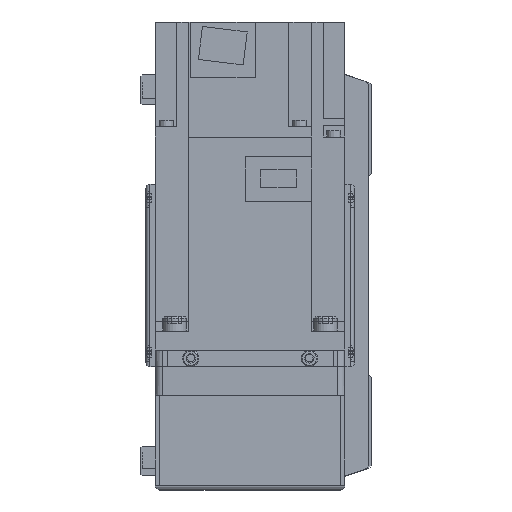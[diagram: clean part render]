
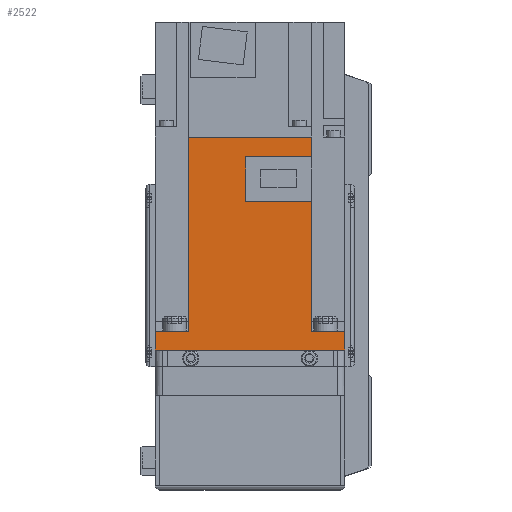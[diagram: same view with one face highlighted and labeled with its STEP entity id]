
A CAD part, left-side view. The second image highlights one B-rep face of the part: STEP entity #2522.
In plain terms, the highlighted planar face has unit normal (-1, 0, 0) as drawn and (1, 0, 0) by its records, which use the part's own axes.
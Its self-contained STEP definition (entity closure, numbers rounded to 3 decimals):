
#2522 = ADVANCED_FACE( '', ( #5636 ), #5637, .F. );
#5636 = FACE_OUTER_BOUND( '', #9440, .T. );
#5637 = PLANE( '', #9441 );
#9440 = EDGE_LOOP( '', ( #16572, #16573, #16574, #16575, #16576, #16577, #16578, #16579, #16580, #16581, #16582, #16583 ) );
#9441 = AXIS2_PLACEMENT_3D( '', #16584, #16585, #16586 );
#16572 = ORIENTED_EDGE( '', *, *, #23973, .F. );
#16573 = ORIENTED_EDGE( '', *, *, #23631, .F. );
#16574 = ORIENTED_EDGE( '', *, *, #23748, .F. );
#16575 = ORIENTED_EDGE( '', *, *, #21787, .T. );
#16576 = ORIENTED_EDGE( '', *, *, #23556, .F. );
#16577 = ORIENTED_EDGE( '', *, *, #23974, .T. );
#16578 = ORIENTED_EDGE( '', *, *, #23257, .T. );
#16579 = ORIENTED_EDGE( '', *, *, #21556, .F. );
#16580 = ORIENTED_EDGE( '', *, *, #22610, .F. );
#16581 = ORIENTED_EDGE( '', *, *, #23633, .F. );
#16582 = ORIENTED_EDGE( '', *, *, #21465, .F. );
#16583 = ORIENTED_EDGE( '', *, *, #23975, .F. );
#16584 = CARTESIAN_POINT( '', ( 40., 89.8, 40. ) );
#16585 = DIRECTION( '', ( -1., 0., 0. ) );
#16586 = DIRECTION( '', ( 0., 0., 1. ) );
#21465 = EDGE_CURVE( '', #25533, #25534, #25535, .T. );
#21556 = EDGE_CURVE( '', #25695, #25697, #25698, .T. );
#21787 = EDGE_CURVE( '', #26110, #26108, #26111, .T. );
#22610 = EDGE_CURVE( '', #27500, #25695, #27501, .T. );
#23257 = EDGE_CURVE( '', #28503, #25697, #28504, .T. );
#23556 = EDGE_CURVE( '', #28934, #26108, #28936, .T. );
#23631 = EDGE_CURVE( '', #29050, #29052, #29053, .T. );
#23633 = EDGE_CURVE( '', #25534, #27500, #29055, .T. );
#23748 = EDGE_CURVE( '', #26110, #29050, #29210, .T. );
#23973 = EDGE_CURVE( '', #29052, #29516, #29517, .T. );
#23974 = EDGE_CURVE( '', #28934, #28503, #29518, .T. );
#23975 = EDGE_CURVE( '', #29516, #25533, #29519, .T. );
#25533 = VERTEX_POINT( '', #31512 );
#25534 = VERTEX_POINT( '', #31513 );
#25535 = LINE( '', #31514, #31515 );
#25695 = VERTEX_POINT( '', #31873 );
#25697 = VERTEX_POINT( '', #31876 );
#25698 = LINE( '', #31877, #31878 );
#26108 = VERTEX_POINT( '', #32482 );
#26110 = VERTEX_POINT( '', #32485 );
#26111 = LINE( '', #32486, #32487 );
#27500 = VERTEX_POINT( '', #34885 );
#27501 = LINE( '', #34886, #34887 );
#28503 = VERTEX_POINT( '', #36395 );
#28504 = LINE( '', #36396, #36397 );
#28934 = VERTEX_POINT( '', #37084 );
#28936 = LINE( '', #37087, #37088 );
#29050 = VERTEX_POINT( '', #37249 );
#29052 = VERTEX_POINT( '', #37252 );
#29053 = LINE( '', #37253, #37254 );
#29055 = LINE( '', #37257, #37258 );
#29210 = LINE( '', #37514, #37515 );
#29516 = VERTEX_POINT( '', #37986 );
#29517 = LINE( '', #37987, #37988 );
#29518 = LINE( '', #37989, #37990 );
#29519 = LINE( '', #37991, #37992 );
#31512 = CARTESIAN_POINT( '', ( 40., 62.8, 1.8 ) );
#31513 = CARTESIAN_POINT( '', ( 40., 62.8, -25.95 ) );
#31514 = CARTESIAN_POINT( '', ( 40., 62.8, 1.8 ) );
#31515 = VECTOR( '', #40241, 1000. );
#31873 = CARTESIAN_POINT( '', ( 40., 8., -40. ) );
#31876 = CARTESIAN_POINT( '', ( 40., 0., -40. ) );
#31877 = CARTESIAN_POINT( '', ( 40., 89.8, -40. ) );
#31878 = VECTOR( '', #40336, 1000. );
#32482 = CARTESIAN_POINT( '', ( 40., 8., 25.95 ) );
#32485 = CARTESIAN_POINT( '', ( 40., 89.8, 25.95 ) );
#32486 = CARTESIAN_POINT( '', ( 40., 158., 25.95 ) );
#32487 = VECTOR( '', #40633, 1000. );
#34885 = CARTESIAN_POINT( '', ( 40., 8., -25.95 ) );
#34886 = CARTESIAN_POINT( '', ( 40., 8., 40. ) );
#34887 = VECTOR( '', #41677, 1000. );
#36395 = CARTESIAN_POINT( '', ( 40., 0., 40. ) );
#36396 = CARTESIAN_POINT( '', ( 40., 0., 40. ) );
#36397 = VECTOR( '', #42519, 1000. );
#37084 = CARTESIAN_POINT( '', ( 40., 8., 40. ) );
#37087 = CARTESIAN_POINT( '', ( 40., 8., 40. ) );
#37088 = VECTOR( '', #42860, 1000. );
#37249 = CARTESIAN_POINT( '', ( 40., 89.8, -25.95 ) );
#37252 = CARTESIAN_POINT( '', ( 40., 81.4, -25.95 ) );
#37253 = CARTESIAN_POINT( '', ( 40., 158., -25.95 ) );
#37254 = VECTOR( '', #42961, 1000. );
#37257 = CARTESIAN_POINT( '', ( 40., 158., -25.95 ) );
#37258 = VECTOR( '', #42963, 1000. );
#37514 = CARTESIAN_POINT( '', ( 40., 89.8, 40. ) );
#37515 = VECTOR( '', #43088, 1000. );
#37986 = CARTESIAN_POINT( '', ( 40., 81.4, 1.8 ) );
#37987 = CARTESIAN_POINT( '', ( 40., 81.4, -26. ) );
#37988 = VECTOR( '', #43388, 1000. );
#37989 = CARTESIAN_POINT( '', ( 40., 89.8, 40. ) );
#37990 = VECTOR( '', #43389, 1000. );
#37991 = CARTESIAN_POINT( '', ( 40., 81.4, 1.8 ) );
#37992 = VECTOR( '', #43390, 1000. );
#40241 = DIRECTION( '', ( 0., 0., -1. ) );
#40336 = DIRECTION( '', ( 0., -1., 0. ) );
#40633 = DIRECTION( '', ( 0., -1., 0. ) );
#41677 = DIRECTION( '', ( 0., 0., -1. ) );
#42519 = DIRECTION( '', ( 0., 0., -1. ) );
#42860 = DIRECTION( '', ( 0., 0., -1. ) );
#42961 = DIRECTION( '', ( 0., -1., 0. ) );
#42963 = DIRECTION( '', ( 0., -1., 0. ) );
#43088 = DIRECTION( '', ( 0., 0., -1. ) );
#43388 = DIRECTION( '', ( 0., 0., 1. ) );
#43389 = DIRECTION( '', ( 0., -1., 0. ) );
#43390 = DIRECTION( '', ( 0., -1., 0. ) );
